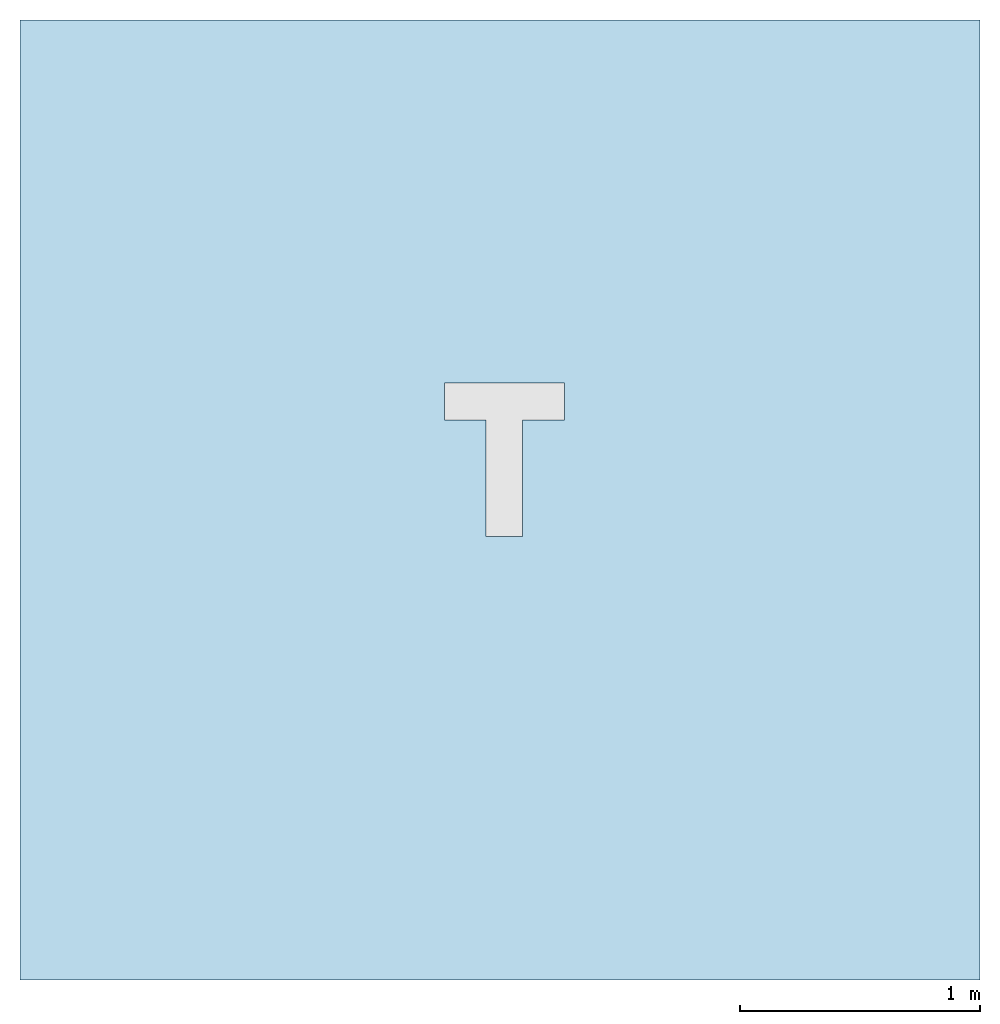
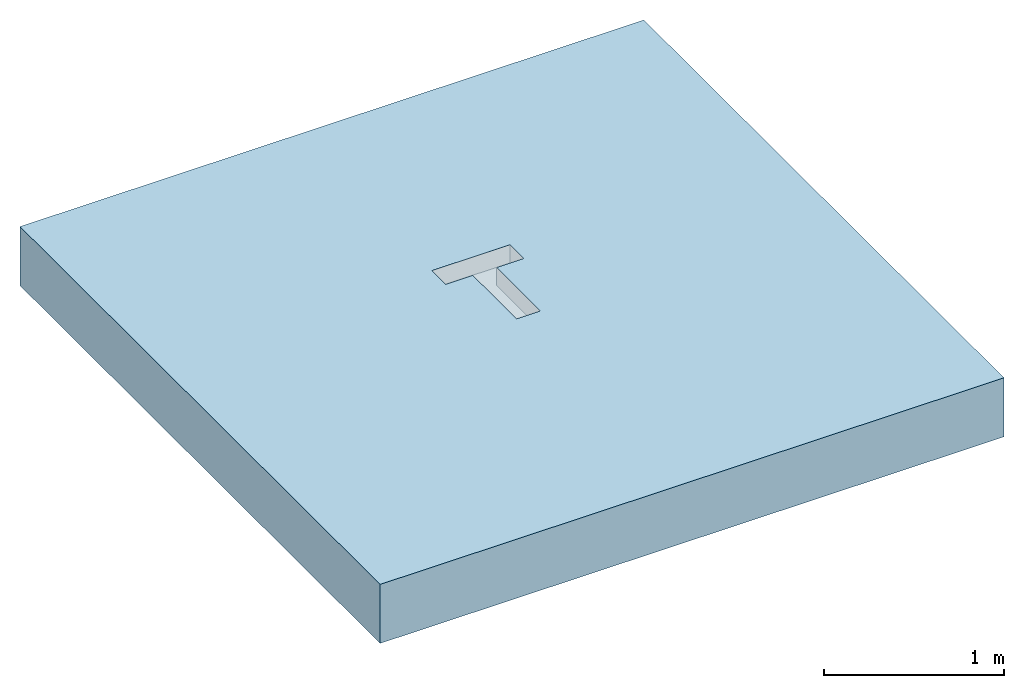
# One storey, incomplete: 1 slab, 1 opening.
"""IFC2X3 building model written with IfcOpenShell, lengths in millimetres."""

from ifc_helpers import new_model, entity, si_unit, converted_unit, direction, frame, frame_2d, origin, place, context, subcontext, project, spatial, polyline, rectangle, outline, extrude, material, layer, layer_set, layer_usage, element, save


model = new_model("IFC2X3")

# Units and contexts
model_context = context("Model", 3, precision=1e-06, world=origin(), true_north=direction((2.0, 6.12303176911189e-17, 1.0)))
context_of_model = context(None, 3, precision=1e-06, world=origin(), true_north=direction((2.0, 6.12303176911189e-17, 1.0)))
body_context = subcontext(model_context, "Body", "Model", "MODEL_VIEW")
ifc_project = project(units=[si_unit("LENGTHUNIT", "METRE", prefix="MILLI"), si_unit("AREAUNIT", "SQUARE_METRE", prefix="MILLI"), si_unit("VOLUMEUNIT", "CUBIC_METRE", prefix="MILLI"), converted_unit("PLANEANGLEUNIT", "DEGREE", entity("IfcRatioMeasure", 0.0174532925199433), si_unit("PLANEANGLEUNIT", "RADIAN"), dimensions=[0, 0, 0, 0, 0, 0, 0]), si_unit("TIMEUNIT", "SECOND")], contexts=[model_context, context_of_model])

# Site, building, storey
site_placement = place(None, origin())
site = spatial("IfcSite", under=ifc_project, at=site_placement, Name="Default", CompositionType="ELEMENT")
building_placement = place(site_placement, origin())
building = spatial("IfcBuilding", under=site, at=building_placement, CompositionType="ELEMENT")
storey_placement = place(building_placement, origin())
storey = spatial("IfcBuildingStorey", under=building, at=storey_placement, Name="Level 1", CompositionType="ELEMENT", Elevation=0.0)

# Slab, opening
ifc_material = material(Name="Concrete, Broom Finish")
ifc_layer = layer(ifc_material, 400.0)
ifc_layer_set = layer_set([ifc_layer], Name="Floor:Generic Floor - 400mm")
ifc_layer_usage = layer_usage(ifc_layer_set, "AXIS3", "POSITIVE", 0.0)
slab_placement = place(storey_placement, origin())
slab = element("IfcSlab", 1, at=slab_placement, inside=storey, material=ifc_layer_usage, Name="Floor:Generic Floor - 400mm", ObjectType="Floor:Generic Floor - 400mm", PredefinedType="FLOOR", context=body_context, shape_type="SweptSolid", body=[
    extrude(rectangle(XDim=4000.0, YDim=4000.0, at=frame_2d((0.0, 0.0), x_axis=(0.0, -1.0))), frame((-42.176138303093, 0.318612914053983, 0.0), z_axis=(0.0, 0.0, -1.0), x_axis=(-1.0, 0.0, 0.0)), (0.0, 0.0, 1.0), 400.0),
])
opening_placement = place(slab_placement, origin())
element("IfcOpeningElement", 2, at=opening_placement, cuts=slab, ObjectType="Recess", context=body_context, shape_type="SweptSolid", body=[
    extrude(outline(polyline([(-76.4999896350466, -402.749989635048), (76.4999689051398, -402.749989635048), (76.4999689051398, 83.2500103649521), (250.000010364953, 83.2499689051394), (250.000010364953, 236.250010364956), (-249.999989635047, 236.250010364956), (-249.999989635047, 83.2499689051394), (-76.4999896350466, 83.2500103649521), (-76.4999896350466, -402.749989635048)])), frame((-24.2866257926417, 251.007658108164, -122.80000000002)), (0.0, 0.0, 1.0), 122.800000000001),
])

save(model, "model.ifc")
